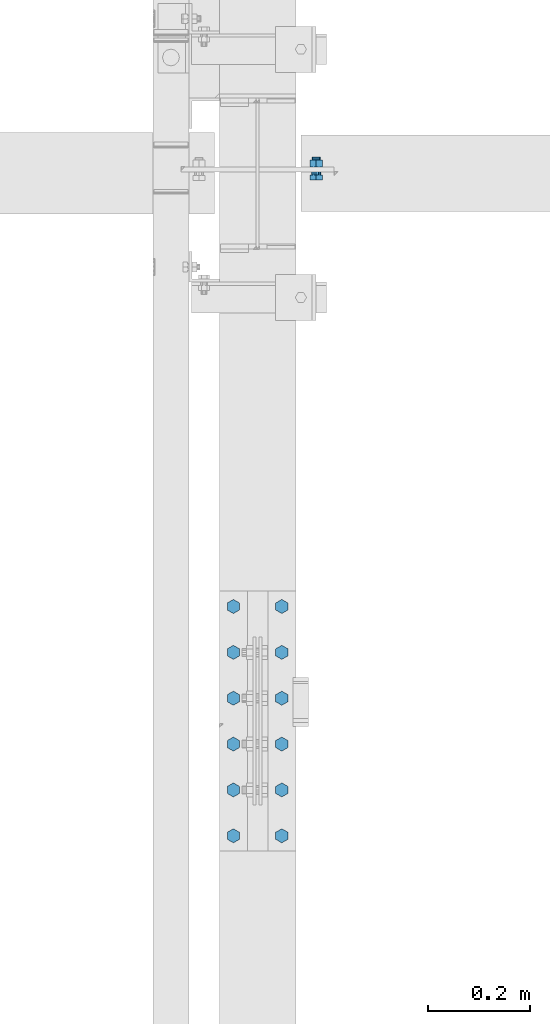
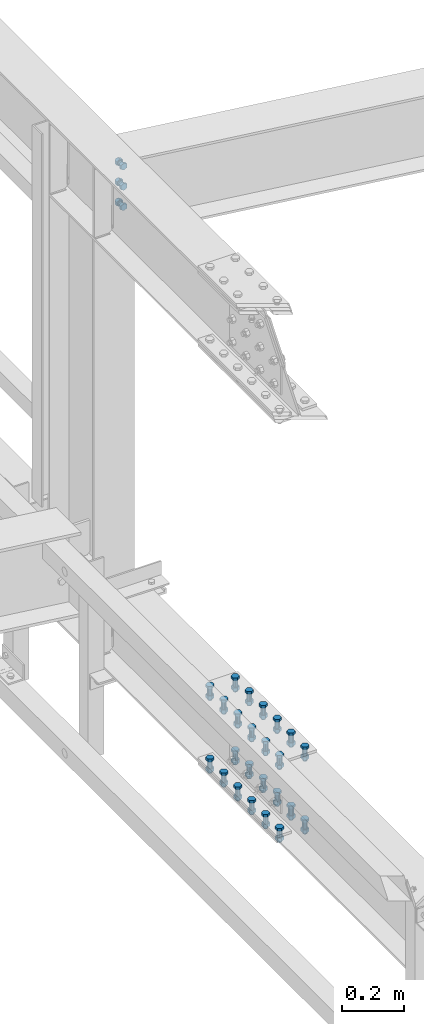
# One storey, part 273 of 3134: 9 mechanical fasteners, 3 elements without a shape of their own.
"""IFC2X3 building model written with IfcOpenShell, lengths in millimetres."""

from ifc_helpers import new_model, si_unit, frame, origin_with_axes, place, context, subcontext, project, spatial, faceted_brep, source, transform, mapped, material, type_object, element, aggregate, save


model = new_model("IFC2X3")

# Units and contexts
model_context = context("Model", 3, precision=1e-05, world=origin_with_axes())
body_context = subcontext(model_context, "Body", "Model", "MODEL_VIEW")
ifc_project = project(units=[si_unit("LENGTHUNIT", "METRE", prefix="MILLI"), si_unit("AREAUNIT", "SQUARE_METRE"), si_unit("VOLUMEUNIT", "CUBIC_METRE"), si_unit("MASSUNIT", "GRAM", prefix="KILO"), si_unit("TIMEUNIT", "SECOND"), si_unit("PLANEANGLEUNIT", "RADIAN"), si_unit("SOLIDANGLEUNIT", "STERADIAN"), si_unit("THERMODYNAMICTEMPERATUREUNIT", "DEGREE_CELSIUS"), si_unit("LUMINOUSINTENSITYUNIT", "LUMEN")], contexts=[model_context])

# Site, building, storey
site_placement = place(None, origin_with_axes())
site = spatial("IfcSite", under=ifc_project, at=site_placement, CompositionType="ELEMENT")
building_placement = place(site_placement, origin_with_axes())
building = spatial("IfcBuilding", under=site, at=building_placement, Name="Undefined", CompositionType="ELEMENT")
storey_placement = place(building_placement, origin_with_axes())
storey = spatial("IfcBuildingStorey", under=building, at=storey_placement, Name="Undefined", CompositionType="ELEMENT", Elevation=0.0)

# Assembly, mechanical fastener
assembly_1_placement = place(storey_placement, origin_with_axes())
assembly_1 = element("IfcElementAssembly", 1, at=assembly_1_placement, inside=storey, Name="300", AssemblyPlace="NOTDEFINED", PredefinedType="RIGID_FRAME")
ifc_material = material(Name="8.8")
mechanical_fastener_type = type_object("IfcMechanicalFastenerType", Name="Bolt assembly")
shared_shape_1 = source(origin_with_axes(), body_context, "Body", "Brep", [
    faceted_brep([(13.856406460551, -13.0499999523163, 0.0), (6.92820323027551, -13.0499999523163, 12.0), (-6.92820323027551, -13.0499999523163, 12.0), (-13.856406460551, -13.0499999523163, 1.69692038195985e-15), (-6.92820323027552, -13.0499999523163, -12.0), (6.9282032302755, -13.0499999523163, -12.0), (6.9282032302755, -3.04999995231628, -12.0), (-6.92820323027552, -3.04999995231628, -12.0), (-13.856406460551, -3.04999995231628, 1.69692038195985e-15), (-6.92820323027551, -3.04999995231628, 12.0), (6.92820323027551, -3.04999995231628, 12.0), (13.856406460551, -3.04999995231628, 0.0), (8.0, -3.04999995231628, 0.0), (6.92820323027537, -3.04999995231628, 4.00000000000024), (3.99999999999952, -3.04999995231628, 6.92820323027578), (-8.29068785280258e-13, -3.04999995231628, 8.0), (-4.00000000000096, -3.04999995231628, 6.92820323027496), (-6.9282032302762, -3.04999995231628, 3.99999999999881), (-8.0, -3.04999995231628, -1.65813757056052e-12), (-6.92820323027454, -3.04999995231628, -4.00000000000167), (-3.99999999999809, -3.04999995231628, -6.92820323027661), (2.47832457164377e-12, -3.04999995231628, -8.0), (4.00000000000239, -3.04999995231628, -6.92820323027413), (6.92820323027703, -3.04999995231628, -3.99999999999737), (6.92820323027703, 31.9500000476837, -3.99999999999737), (4.00000000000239, 31.9500000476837, -6.92820323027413), (2.47832457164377e-12, 31.9500000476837, -8.0), (-3.99999999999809, 31.9500000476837, -6.92820323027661), (-6.92820323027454, 31.9500000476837, -4.00000000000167), (-8.0, 31.9500000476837, -1.65813757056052e-12), (-6.9282032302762, 31.9500000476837, 3.99999999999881), (-4.00000000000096, 31.9500000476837, 6.92820323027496), (-8.29068785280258e-13, 31.9500000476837, 8.0), (3.99999999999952, 31.9500000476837, 6.92820323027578), (6.92820323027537, 31.9500000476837, 4.00000000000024), (8.0, 31.9500000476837, 0.0), (13.856406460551, 13.0500000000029, 0.0), (6.92820323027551, 13.0500000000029, 12.0), (-6.92820323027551, 13.0500000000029, 12.0), (-13.856406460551, 13.0500000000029, 1.69692038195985e-15), (-6.92820323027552, 13.0500000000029, -12.0), (6.9282032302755, 13.0500000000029, -12.0), (6.9282032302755, 26.0500000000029, -12.0), (-6.92820323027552, 26.0500000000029, -12.0), (-13.856406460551, 26.0500000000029, 1.69692038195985e-15), (-6.92820323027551, 26.0500000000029, 12.0), (6.92820323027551, 26.0500000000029, 12.0), (13.856406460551, 26.0500000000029, 0.0)], [[[0, 1, 2, 3, 4, 5]], [[6, 7, 8, 9, 10, 11]], [[0, 11, 10, 1]], [[1, 10, 9, 2]], [[2, 9, 8, 3]], [[3, 8, 7, 4]], [[4, 7, 6, 5]], [[5, 6, 11, 0]], [[12, 13, 14, 15, 16, 17, 18, 19, 20, 21, 22, 23]], [[24, 25, 26, 27, 28, 29, 30, 31, 32, 33, 34, 35]], [[12, 35, 34, 13]], [[13, 34, 33, 14]], [[14, 33, 32, 15]], [[15, 32, 31, 16]], [[16, 31, 30, 17]], [[17, 30, 29, 18]], [[18, 29, 28, 19]], [[19, 28, 27, 20]], [[20, 27, 26, 21]], [[21, 26, 25, 22]], [[22, 25, 24, 23]], [[23, 24, 35, 12]], [[36, 37, 38, 39, 40, 41]], [[42, 43, 44, 45, 46, 47]], [[36, 47, 46, 37]], [[37, 46, 45, 38]], [[38, 45, 44, 39]], [[39, 44, 43, 40]], [[40, 43, 42, 41]], [[41, 42, 47, 36]]]),
    faceted_brep([(9.0, 2.95000000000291, 0.0), (7.79422863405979, 2.95000000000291, 4.50000000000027), (4.49999999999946, 2.95000000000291, 7.79422863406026), (-9.3270238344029e-13, 2.95000000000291, 9.0), (-4.50000000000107, 2.95000000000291, 7.79422863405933), (-7.79422863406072, 2.95000000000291, 4.49999999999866), (-9.0, 2.95000000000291, -1.86540476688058e-12), (-7.79422863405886, 2.95000000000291, -4.50000000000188), (-4.49999999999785, 2.95000000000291, -7.79422863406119), (2.78811514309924e-12, 2.95000000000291, -9.0), (4.50000000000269, 2.95000000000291, -7.7942286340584), (7.79422863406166, 2.95000000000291, -4.49999999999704), (7.79422863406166, 13.0500000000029, -4.49999999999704), (4.50000000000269, 13.0500000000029, -7.7942286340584), (2.78811514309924e-12, 13.0500000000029, -9.0), (-4.49999999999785, 13.0500000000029, -7.79422863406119), (-7.79422863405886, 13.0500000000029, -4.50000000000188), (-9.0, 13.0500000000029, -1.86540476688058e-12), (-7.79422863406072, 13.0500000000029, 4.49999999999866), (-4.50000000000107, 13.0500000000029, 7.79422863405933), (-9.3270238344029e-13, 13.0500000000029, 9.0), (4.49999999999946, 13.0500000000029, 7.79422863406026), (7.79422863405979, 13.0500000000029, 4.50000000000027), (9.0, 13.0500000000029, 0.0), (9.0, -2.94999995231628, 0.0), (7.79422863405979, -2.94999995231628, 4.50000000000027), (4.49999999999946, -2.94999995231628, 7.79422863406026), (-9.3270238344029e-13, -2.94999995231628, 9.0), (-4.50000000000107, -2.94999995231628, 7.79422863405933), (-7.79422863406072, -2.94999995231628, 4.49999999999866), (-9.0, -2.94999995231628, -1.86540476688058e-12), (-7.79422863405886, -2.94999995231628, -4.50000000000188), (-4.49999999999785, -2.94999995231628, -7.79422863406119), (2.78811514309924e-12, -2.94999995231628, -9.0), (4.50000000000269, -2.94999995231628, -7.7942286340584), (7.79422863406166, -2.94999995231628, -4.49999999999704), (7.79422863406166, 3.14999995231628, -4.49999999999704), (4.50000000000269, 3.14999995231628, -7.7942286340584), (2.78811514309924e-12, 3.14999995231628, -9.0), (-4.49999999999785, 3.14999995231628, -7.79422863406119), (-7.79422863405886, 3.14999995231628, -4.50000000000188), (-9.0, 3.14999995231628, -1.86540476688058e-12), (-7.79422863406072, 3.14999995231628, 4.49999999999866), (-4.50000000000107, 3.14999995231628, 7.79422863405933), (-9.3270238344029e-13, 3.14999995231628, 9.0), (4.49999999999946, 3.14999995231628, 7.79422863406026), (7.79422863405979, 3.14999995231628, 4.50000000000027), (9.0, 3.14999995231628, 0.0)], [[[0, 1, 2, 3, 4, 5, 6, 7, 8, 9, 10, 11]], [[12, 13, 14, 15, 16, 17, 18, 19, 20, 21, 22, 23]], [[0, 23, 22, 1]], [[1, 22, 21, 2]], [[2, 21, 20, 3]], [[3, 20, 19, 4]], [[4, 19, 18, 5]], [[5, 18, 17, 6]], [[6, 17, 16, 7]], [[7, 16, 15, 8]], [[8, 15, 14, 9]], [[9, 14, 13, 10]], [[10, 13, 12, 11]], [[11, 12, 23, 0]], [[24, 25, 26, 27, 28, 29, 30, 31, 32, 33, 34, 35]], [[36, 37, 38, 39, 40, 41, 42, 43, 44, 45, 46, 47]], [[24, 47, 46, 25]], [[25, 46, 45, 26]], [[26, 45, 44, 27]], [[27, 44, 43, 28]], [[28, 43, 42, 29]], [[29, 42, 41, 30]], [[30, 41, 40, 31]], [[31, 40, 39, 32]], [[32, 39, 38, 33]], [[33, 38, 37, 34]], [[34, 37, 36, 35]], [[35, 36, 47, 24]]]),
])
mechanical_fastener_1_placement = place(assembly_1_placement, frame((44315.0, 53250.0, 5735.35014950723), z_axis=(1.0, 0.0, 0.0), x_axis=(0.0, 0.0, -1.0)))
mechanical_fastener_1 = element("IfcMechanicalFastener", 2, at=mechanical_fastener_1_placement, type_object=mechanical_fastener_type, material=ifc_material, Name="Bolt assembly", NominalDiameter=16.0, NominalLength=35.0, context=body_context, shape_type="MappedRepresentation", body=[
    mapped(shared_shape_1, transform((0.0, 0.0, 0.0))),
    mapped(shared_shape_1, transform((80.0, 0.0, 0.0))),
    mapped(shared_shape_1, transform((160.0, 0.0, 0.0))),
])
aggregate(assembly_1, [mechanical_fastener_1])

assembly_2_placement = place(storey_placement, origin_with_axes())
assembly_2 = element("IfcElementAssembly", 3, at=assembly_2_placement, inside=storey, Name="300", AssemblyPlace="NOTDEFINED", PredefinedType="RIGID_FRAME")
shared_shape_2 = source(origin_with_axes(), body_context, "Body", "Brep", [
    faceted_brep([(13.856406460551, -29.1999998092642, 0.0), (6.92820323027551, -29.1999998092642, 12.0), (-6.92820323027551, -29.1999998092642, 12.0), (-13.856406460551, -29.1999998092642, 1.69692038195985e-15), (-6.92820323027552, -29.1999998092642, -12.0), (6.9282032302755, -29.1999998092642, -12.0), (6.9282032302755, -19.199990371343, -12.0), (-6.92820323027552, -19.199990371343, -12.0), (-13.856406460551, -19.199990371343, 1.69692038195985e-15), (-6.92820323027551, -19.199990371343, 12.0), (6.92820323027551, -19.199990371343, 12.0), (13.856406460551, -19.199990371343, 0.0), (8.0, -19.1999998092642, 0.0), (6.92820323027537, -19.1999998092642, 4.00000000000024), (3.99999999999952, -19.1999998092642, 6.92820323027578), (-8.29068785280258e-13, -19.1999998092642, 8.0), (-4.00000000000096, -19.1999998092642, 6.92820323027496), (-6.9282032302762, -19.1999998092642, 3.99999999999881), (-8.0, -19.1999998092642, -1.65813757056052e-12), (-6.92820323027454, -19.1999998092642, -4.00000000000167), (-3.99999999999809, -19.1999998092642, -6.92820323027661), (2.47832457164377e-12, -19.1999998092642, -8.0), (4.00000000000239, -19.1999998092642, -6.92820323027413), (6.92820323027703, -19.1999998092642, -3.99999999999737), (6.92820323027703, 30.8000001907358, -3.99999999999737), (4.00000000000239, 30.8000001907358, -6.92820323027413), (2.47832457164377e-12, 30.8000001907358, -8.0), (-3.99999999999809, 30.8000001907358, -6.92820323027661), (-6.92820323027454, 30.8000001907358, -4.00000000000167), (-8.0, 30.8000001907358, -1.65813757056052e-12), (-6.9282032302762, 30.8000001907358, 3.99999999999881), (-4.00000000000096, 30.8000001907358, 6.92820323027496), (-8.29068785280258e-13, 30.8000001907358, 8.0), (3.99999999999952, 30.8000001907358, 6.92820323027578), (6.92820323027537, 30.8000001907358, 4.00000000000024), (8.0, 30.8000001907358, 0.0), (13.856406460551, 9.99999995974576, 0.0), (6.92820323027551, 9.99999995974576, 12.0), (-6.92820323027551, 9.99999995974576, 12.0), (-13.856406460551, 9.99999995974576, 1.69692038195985e-15), (-6.92820323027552, 9.99999995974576, -12.0), (6.9282032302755, 9.99999995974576, -12.0), (6.9282032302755, 22.9999913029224, -12.0), (-6.92820323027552, 22.9999913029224, -12.0), (-13.856406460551, 22.9999913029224, 1.69692038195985e-15), (-6.92820323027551, 22.9999913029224, 12.0), (6.92820323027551, 22.9999913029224, 12.0), (13.856406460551, 22.9999913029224, 0.0)], [[[0, 1, 2, 3, 4, 5]], [[6, 7, 8, 9, 10, 11]], [[0, 11, 10, 1]], [[1, 10, 9, 2]], [[2, 9, 8, 3]], [[3, 8, 7, 4]], [[4, 7, 6, 5]], [[5, 6, 11, 0]], [[12, 13, 14, 15, 16, 17, 18, 19, 20, 21, 22, 23]], [[24, 25, 26, 27, 28, 29, 30, 31, 32, 33, 34, 35]], [[12, 35, 34, 13]], [[13, 34, 33, 14]], [[14, 33, 32, 15]], [[15, 32, 31, 16]], [[16, 31, 30, 17]], [[17, 30, 29, 18]], [[18, 29, 28, 19]], [[19, 28, 27, 20]], [[20, 27, 26, 21]], [[21, 26, 25, 22]], [[22, 25, 24, 23]], [[23, 24, 35, 12]], [[36, 37, 38, 39, 40, 41]], [[42, 43, 44, 45, 46, 47]], [[36, 47, 46, 37]], [[37, 46, 45, 38]], [[38, 45, 44, 39]], [[39, 44, 43, 40]], [[40, 43, 42, 41]], [[41, 42, 47, 36]]]),
    faceted_brep([(9.0, -19.0999998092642, 0.0), (7.79422863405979, -19.0999998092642, 4.50000000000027), (4.49999999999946, -19.0999998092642, 7.79422863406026), (-9.3270238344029e-13, -19.0999998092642, 9.0), (-4.50000000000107, -19.0999998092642, 7.79422863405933), (-7.79422863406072, -19.0999998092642, 4.49999999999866), (-9.0, -19.0999998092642, -1.86540476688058e-12), (-7.79422863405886, -19.0999998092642, -4.50000000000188), (-4.49999999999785, -19.0999998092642, -7.79422863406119), (2.78811514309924e-12, -19.0999998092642, -9.0), (4.50000000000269, -19.0999998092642, -7.7942286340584), (7.79422863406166, -19.0999998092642, -4.49999999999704), (7.79422863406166, -9.09999037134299, -4.49999999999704), (4.50000000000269, -9.09999037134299, -7.7942286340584), (2.78811514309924e-12, -9.09999037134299, -9.0), (-4.49999999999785, -9.09999037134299, -7.79422863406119), (-7.79422863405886, -9.09999037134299, -4.50000000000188), (-9.0, -9.09999037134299, -1.86540476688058e-12), (-7.79422863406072, -9.09999037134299, 4.49999999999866), (-4.50000000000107, -9.09999037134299, 7.79422863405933), (-9.3270238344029e-13, -9.09999037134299, 9.0), (4.49999999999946, -9.09999037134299, 7.79422863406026), (7.79422863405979, -9.09999037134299, 4.50000000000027), (9.0, -9.09999037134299, 0.0), (9.0, -9.20000008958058, 0.0), (7.79422863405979, -9.20000008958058, 4.50000000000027), (4.49999999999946, -9.20000008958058, 7.79422863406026), (-9.3270238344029e-13, -9.20000008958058, 9.0), (-4.50000000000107, -9.20000008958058, 7.79422863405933), (-7.79422863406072, -9.20000008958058, 4.49999999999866), (-9.0, -9.20000008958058, -1.86540476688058e-12), (-7.79422863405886, -9.20000008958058, -4.50000000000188), (-4.49999999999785, -9.20000008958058, -7.79422863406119), (2.78811514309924e-12, -9.20000008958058, -9.0), (4.50000000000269, -9.20000008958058, -7.7942286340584), (7.79422863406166, -9.20000008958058, -4.49999999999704), (7.79422863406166, -3.46568413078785e-07, -4.49999999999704), (4.50000000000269, -3.46568413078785e-07, -7.7942286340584), (2.78811514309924e-12, -3.46568413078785e-07, -9.0), (-4.49999999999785, -3.46568413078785e-07, -7.79422863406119), (-7.79422863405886, -3.46568413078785e-07, -4.50000000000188), (-9.0, -3.46568413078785e-07, -1.86540476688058e-12), (-7.79422863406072, -3.46568413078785e-07, 4.49999999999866), (-4.50000000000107, -3.46568413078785e-07, 7.79422863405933), (-9.3270238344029e-13, -3.46568413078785e-07, 9.0), (4.49999999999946, -3.46568413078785e-07, 7.79422863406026), (7.79422863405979, -3.46568413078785e-07, 4.50000000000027), (9.0, -3.46568413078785e-07, 0.0), (9.0, -0.1, 0.0), (7.79422863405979, -0.1, 4.50000000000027), (4.49999999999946, -0.1, 7.79422863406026), (-9.3270238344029e-13, -0.1, 9.0), (-4.50000000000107, -0.1, 7.79422863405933), (-7.79422863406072, -0.1, 4.49999999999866), (-9.0, -0.1, -1.86540476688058e-12), (-7.79422863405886, -0.1, -4.50000000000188), (-4.49999999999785, -0.1, -7.79422863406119), (2.78811514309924e-12, -0.1, -9.0), (4.50000000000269, -0.1, -7.7942286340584), (7.79422863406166, -0.1, -4.49999999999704), (7.79422863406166, 9.99999995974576, -4.49999999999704), (4.50000000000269, 9.99999995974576, -7.7942286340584), (2.78811514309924e-12, 9.99999995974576, -9.0), (-4.49999999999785, 9.99999995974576, -7.79422863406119), (-7.79422863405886, 9.99999995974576, -4.50000000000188), (-9.0, 9.99999995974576, -1.86540476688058e-12), (-7.79422863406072, 9.99999995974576, 4.49999999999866), (-4.50000000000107, 9.99999995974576, 7.79422863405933), (-9.3270238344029e-13, 9.99999995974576, 9.0), (4.49999999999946, 9.99999995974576, 7.79422863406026), (7.79422863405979, 9.99999995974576, 4.50000000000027), (9.0, 9.99999995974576, 0.0)], [[[0, 1, 2, 3, 4, 5, 6, 7, 8, 9, 10, 11]], [[12, 13, 14, 15, 16, 17, 18, 19, 20, 21, 22, 23]], [[0, 23, 22, 1]], [[1, 22, 21, 2]], [[2, 21, 20, 3]], [[3, 20, 19, 4]], [[4, 19, 18, 5]], [[5, 18, 17, 6]], [[6, 17, 16, 7]], [[7, 16, 15, 8]], [[8, 15, 14, 9]], [[9, 14, 13, 10]], [[10, 13, 12, 11]], [[11, 12, 23, 0]], [[24, 25, 26, 27, 28, 29, 30, 31, 32, 33, 34, 35]], [[36, 37, 38, 39, 40, 41, 42, 43, 44, 45, 46, 47]], [[24, 47, 46, 25]], [[25, 46, 45, 26]], [[26, 45, 44, 27]], [[27, 44, 43, 28]], [[28, 43, 42, 29]], [[29, 42, 41, 30]], [[30, 41, 40, 31]], [[31, 40, 39, 32]], [[32, 39, 38, 33]], [[33, 38, 37, 34]], [[34, 37, 36, 35]], [[35, 36, 47, 24]], [[48, 49, 50, 51, 52, 53, 54, 55, 56, 57, 58, 59]], [[60, 61, 62, 63, 64, 65, 66, 67, 68, 69, 70, 71]], [[48, 71, 70, 49]], [[49, 70, 69, 50]], [[50, 69, 68, 51]], [[51, 68, 67, 52]], [[52, 67, 66, 53]], [[53, 66, 65, 54]], [[54, 65, 64, 55]], [[55, 64, 63, 56]], [[56, 63, 62, 57]], [[57, 62, 61, 58]], [[58, 61, 60, 59]], [[59, 60, 71, 48]]]),
])
mechanical_fastener_2_placement = place(assembly_2_placement, frame((44247.5, 52220.1, 4227.80000019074), z_axis=(-1.0, 0.0, 0.0), x_axis=(0.0, 1.0, 0.0)))
mechanical_fastener_2 = element("IfcMechanicalFastener", 4, at=mechanical_fastener_2_placement, type_object=mechanical_fastener_type, material=ifc_material, Name="Bolt assembly", NominalDiameter=16.0, NominalLength=50.0, context=body_context, shape_type="MappedRepresentation", body=[
    mapped(shared_shape_2, transform((0.0, 0.0, 0.0))),
    mapped(shared_shape_2, transform((90.0, 0.0, 0.0))),
    mapped(shared_shape_2, transform((180.0, 0.0, 0.0))),
])

assembly_3_placement = place(storey_placement, origin_with_axes())
assembly_3 = element("IfcElementAssembly", 5, at=assembly_3_placement, inside=storey, Name="300", AssemblyPlace="NOTDEFINED", PredefinedType="RIGID_FRAME")
mechanical_fastener_3_placement = place(assembly_3_placement, frame((44247.5, 51950.1, 4227.80000019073), z_axis=(-1.0, 0.0, 0.0), x_axis=(0.0, 1.0, 0.0)))
mechanical_fastener_3 = element("IfcMechanicalFastener", 6, at=mechanical_fastener_3_placement, type_object=mechanical_fastener_type, material=ifc_material, Name="Bolt assembly", NominalDiameter=16.0, NominalLength=50.0, context=body_context, shape_type="MappedRepresentation", body=[
    mapped(shared_shape_2, transform((0.0, 0.0, 0.0))),
    mapped(shared_shape_2, transform((90.0, 0.0, 0.0))),
    mapped(shared_shape_2, transform((180.0, 0.0, 0.0))),
])

# Mechanical fastener
mechanical_fastener_4_placement = place(assembly_2_placement, frame((44152.5, 52220.1, 4227.80000019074), z_axis=(-1.0, 0.0, 0.0), x_axis=(0.0, 1.0, 0.0)))
mechanical_fastener_4 = element("IfcMechanicalFastener", 7, at=mechanical_fastener_4_placement, type_object=mechanical_fastener_type, material=ifc_material, Name="Bolt assembly", NominalDiameter=16.0, NominalLength=50.0, context=body_context, shape_type="MappedRepresentation", body=[
    mapped(shared_shape_2, transform((0.0, 0.0, 0.0))),
    mapped(shared_shape_2, transform((90.0, 0.0, 0.0))),
    mapped(shared_shape_2, transform((180.0, 0.0, 0.0))),
])

mechanical_fastener_5_placement = place(assembly_3_placement, frame((44152.5, 51950.1, 4227.80000019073), z_axis=(-1.0, 0.0, 0.0), x_axis=(0.0, 1.0, 0.0)))
mechanical_fastener_5 = element("IfcMechanicalFastener", 8, at=mechanical_fastener_5_placement, type_object=mechanical_fastener_type, material=ifc_material, Name="Bolt assembly", NominalDiameter=16.0, NominalLength=50.0, context=body_context, shape_type="MappedRepresentation", body=[
    mapped(shared_shape_2, transform((0.0, 0.0, 0.0))),
    mapped(shared_shape_2, transform((90.0, 0.0, 0.0))),
    mapped(shared_shape_2, transform((180.0, 0.0, 0.0))),
])

shared_shape_3 = source(origin_with_axes(), body_context, "Body", "Brep", [
    faceted_brep([(13.856406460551, -20.0, 0.0), (6.92820323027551, -20.0, 12.0), (-6.92820323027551, -20.0, 12.0), (-13.856406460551, -20.0, 1.69692038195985e-15), (-6.92820323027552, -20.0, -12.0), (6.9282032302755, -20.0, -12.0), (6.9282032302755, -10.0, -12.0), (-6.92820323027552, -10.0, -12.0), (-13.856406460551, -10.0, 1.69692038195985e-15), (-6.92820323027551, -10.0, 12.0), (6.92820323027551, -10.0, 12.0), (13.856406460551, -10.0, 0.0), (8.0, -10.0, 0.0), (6.92820323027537, -10.0, 4.00000000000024), (3.99999999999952, -10.0, 6.92820323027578), (-8.29068785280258e-13, -10.0, 8.0), (-4.00000000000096, -10.0, 6.92820323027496), (-6.9282032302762, -10.0, 3.99999999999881), (-8.0, -10.0, -1.65813757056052e-12), (-6.92820323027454, -10.0, -4.00000000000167), (-3.99999999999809, -10.0, -6.92820323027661), (2.47832457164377e-12, -10.0, -8.0), (4.00000000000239, -10.0, -6.92820323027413), (6.92820323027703, -10.0, -3.99999999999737), (6.92820323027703, 40.0, -3.99999999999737), (4.00000000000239, 40.0, -6.92820323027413), (2.47832457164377e-12, 40.0, -8.0), (-3.99999999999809, 40.0, -6.92820323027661), (-6.92820323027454, 40.0, -4.00000000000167), (-8.0, 40.0, -1.65813757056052e-12), (-6.9282032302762, 40.0, 3.99999999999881), (-4.00000000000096, 40.0, 6.92820323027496), (-8.29068785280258e-13, 40.0, 8.0), (3.99999999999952, 40.0, 6.92820323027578), (6.92820323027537, 40.0, 4.00000000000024), (8.0, 40.0, 0.0), (13.856406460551, 19.1999998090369, 0.0), (6.92820323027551, 19.1999998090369, 12.0), (-6.92820323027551, 19.1999998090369, 12.0), (-13.856406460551, 19.1999998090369, 1.69692038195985e-15), (-6.92820323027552, 19.1999998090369, -12.0), (6.9282032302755, 19.1999998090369, -12.0), (6.9282032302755, 32.1999998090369, -12.0), (-6.92820323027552, 32.1999998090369, -12.0), (-13.856406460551, 32.1999998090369, 1.69692038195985e-15), (-6.92820323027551, 32.1999998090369, 12.0), (6.92820323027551, 32.1999998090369, 12.0), (13.856406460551, 32.1999998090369, 0.0)], [[[0, 1, 2, 3, 4, 5]], [[6, 7, 8, 9, 10, 11]], [[0, 11, 10, 1]], [[1, 10, 9, 2]], [[2, 9, 8, 3]], [[3, 8, 7, 4]], [[4, 7, 6, 5]], [[5, 6, 11, 0]], [[12, 13, 14, 15, 16, 17, 18, 19, 20, 21, 22, 23]], [[24, 25, 26, 27, 28, 29, 30, 31, 32, 33, 34, 35]], [[12, 35, 34, 13]], [[13, 34, 33, 14]], [[14, 33, 32, 15]], [[15, 32, 31, 16]], [[16, 31, 30, 17]], [[17, 30, 29, 18]], [[18, 29, 28, 19]], [[19, 28, 27, 20]], [[20, 27, 26, 21]], [[21, 26, 25, 22]], [[22, 25, 24, 23]], [[23, 24, 35, 12]], [[36, 37, 38, 39, 40, 41]], [[42, 43, 44, 45, 46, 47]], [[36, 47, 46, 37]], [[37, 46, 45, 38]], [[38, 45, 44, 39]], [[39, 44, 43, 40]], [[40, 43, 42, 41]], [[41, 42, 47, 36]]]),
    faceted_brep([(9.0, 9.09999980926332, 0.0), (7.79422863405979, 9.09999980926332, 4.50000000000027), (4.49999999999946, 9.09999980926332, 7.79422863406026), (-9.3270238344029e-13, 9.09999980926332, 9.0), (-4.50000000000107, 9.09999980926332, 7.79422863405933), (-7.79422863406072, 9.09999980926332, 4.49999999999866), (-9.0, 9.09999980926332, -1.86540476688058e-12), (-7.79422863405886, 9.09999980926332, -4.50000000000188), (-4.49999999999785, 9.09999980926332, -7.79422863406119), (2.78811514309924e-12, 9.09999980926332, -9.0), (4.50000000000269, 9.09999980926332, -7.7942286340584), (7.79422863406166, 9.09999980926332, -4.49999999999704), (7.79422863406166, 19.1999998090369, -4.49999999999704), (4.50000000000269, 19.1999998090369, -7.7942286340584), (2.78811514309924e-12, 19.1999998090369, -9.0), (-4.49999999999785, 19.1999998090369, -7.79422863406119), (-7.79422863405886, 19.1999998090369, -4.50000000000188), (-9.0, 19.1999998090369, -1.86540476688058e-12), (-7.79422863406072, 19.1999998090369, 4.49999999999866), (-4.50000000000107, 19.1999998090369, 7.79422863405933), (-9.3270238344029e-13, 19.1999998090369, 9.0), (4.49999999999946, 19.1999998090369, 7.79422863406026), (7.79422863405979, 19.1999998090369, 4.50000000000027), (9.0, 19.1999998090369, 0.0), (9.0, -3.46568413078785e-07, 0.0), (7.79422863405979, -3.46568413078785e-07, 4.50000000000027), (4.49999999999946, -3.46568413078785e-07, 7.79422863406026), (-9.3270238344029e-13, -3.46568413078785e-07, 9.0), (-4.50000000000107, -3.46568413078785e-07, 7.79422863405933), (-7.79422863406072, -3.46568413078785e-07, 4.49999999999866), (-9.0, -3.46568413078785e-07, -1.86540476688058e-12), (-7.79422863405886, -3.46568413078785e-07, -4.50000000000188), (-4.49999999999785, -3.46568413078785e-07, -7.79422863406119), (2.78811514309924e-12, -3.46568413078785e-07, -9.0), (4.50000000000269, -3.46568413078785e-07, -7.7942286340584), (7.79422863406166, -3.46568413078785e-07, -4.49999999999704), (7.79422863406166, 9.19999980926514, -4.49999999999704), (4.50000000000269, 9.19999980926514, -7.7942286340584), (2.78811514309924e-12, 9.19999980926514, -9.0), (-4.49999999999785, 9.19999980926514, -7.79422863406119), (-7.79422863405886, 9.19999980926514, -4.50000000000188), (-9.0, 9.19999980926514, -1.86540476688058e-12), (-7.79422863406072, 9.19999980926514, 4.49999999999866), (-4.50000000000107, 9.19999980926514, 7.79422863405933), (-9.3270238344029e-13, 9.19999980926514, 9.0), (4.49999999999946, 9.19999980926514, 7.79422863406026), (7.79422863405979, 9.19999980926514, 4.50000000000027), (9.0, 9.19999980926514, 0.0), (9.0, -9.89999997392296, 0.0), (7.79422863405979, -9.89999997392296, 4.50000000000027), (4.49999999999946, -9.89999997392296, 7.79422863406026), (-9.3270238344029e-13, -9.89999997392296, 9.0), (-4.50000000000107, -9.89999997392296, 7.79422863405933), (-7.79422863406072, -9.89999997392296, 4.49999999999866), (-9.0, -9.89999997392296, -1.86540476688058e-12), (-7.79422863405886, -9.89999997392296, -4.50000000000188), (-4.49999999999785, -9.89999997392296, -7.79422863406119), (2.78811514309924e-12, -9.89999997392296, -9.0), (4.50000000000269, -9.89999997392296, -7.7942286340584), (7.79422863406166, -9.89999997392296, -4.49999999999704), (7.79422863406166, 0.100000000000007, -4.49999999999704), (4.50000000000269, 0.100000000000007, -7.7942286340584), (2.78811514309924e-12, 0.100000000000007, -9.0), (-4.49999999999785, 0.100000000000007, -7.79422863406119), (-7.79422863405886, 0.100000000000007, -4.50000000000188), (-9.0, 0.100000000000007, -1.86540476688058e-12), (-7.79422863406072, 0.100000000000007, 4.49999999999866), (-4.50000000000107, 0.100000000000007, 7.79422863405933), (-9.3270238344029e-13, 0.100000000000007, 9.0), (4.49999999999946, 0.100000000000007, 7.79422863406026), (7.79422863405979, 0.100000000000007, 4.50000000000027), (9.0, 0.100000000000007, 0.0)], [[[0, 1, 2, 3, 4, 5, 6, 7, 8, 9, 10, 11]], [[12, 13, 14, 15, 16, 17, 18, 19, 20, 21, 22, 23]], [[0, 23, 22, 1]], [[1, 22, 21, 2]], [[2, 21, 20, 3]], [[3, 20, 19, 4]], [[4, 19, 18, 5]], [[5, 18, 17, 6]], [[6, 17, 16, 7]], [[7, 16, 15, 8]], [[8, 15, 14, 9]], [[9, 14, 13, 10]], [[10, 13, 12, 11]], [[11, 12, 23, 0]], [[24, 25, 26, 27, 28, 29, 30, 31, 32, 33, 34, 35]], [[36, 37, 38, 39, 40, 41, 42, 43, 44, 45, 46, 47]], [[24, 47, 46, 25]], [[25, 46, 45, 26]], [[26, 45, 44, 27]], [[27, 44, 43, 28]], [[28, 43, 42, 29]], [[29, 42, 41, 30]], [[30, 41, 40, 31]], [[31, 40, 39, 32]], [[32, 39, 38, 33]], [[33, 38, 37, 34]], [[34, 37, 36, 35]], [[35, 36, 47, 24]], [[48, 49, 50, 51, 52, 53, 54, 55, 56, 57, 58, 59]], [[60, 61, 62, 63, 64, 65, 66, 67, 68, 69, 70, 71]], [[48, 71, 70, 49]], [[49, 70, 69, 50]], [[50, 69, 68, 51]], [[51, 68, 67, 52]], [[52, 67, 66, 53]], [[53, 66, 65, 54]], [[54, 65, 64, 55]], [[55, 64, 63, 56]], [[56, 63, 62, 57]], [[57, 62, 61, 58]], [[58, 61, 60, 59]], [[59, 60, 71, 48]]]),
])
mechanical_fastener_6_placement = place(assembly_2_placement, frame((44152.4999999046, 52220.1, 3949.19999980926), z_axis=(-1.0, 0.0, 0.0), x_axis=(0.0, 1.0, 0.0)))
mechanical_fastener_6 = element("IfcMechanicalFastener", 9, at=mechanical_fastener_6_placement, type_object=mechanical_fastener_type, material=ifc_material, Name="Bolt assembly", NominalDiameter=16.0, NominalLength=50.0, context=body_context, shape_type="MappedRepresentation", body=[
    mapped(shared_shape_3, transform((0.0, 0.0, 0.0))),
    mapped(shared_shape_3, transform((90.0, 0.0, 0.0))),
    mapped(shared_shape_3, transform((180.0, 0.0, 0.0))),
])

mechanical_fastener_7_placement = place(assembly_3_placement, frame((44152.4999999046, 51950.1, 3949.19999980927), z_axis=(-1.0, 0.0, 0.0), x_axis=(0.0, 1.0, 0.0)))
mechanical_fastener_7 = element("IfcMechanicalFastener", 10, at=mechanical_fastener_7_placement, type_object=mechanical_fastener_type, material=ifc_material, Name="Bolt assembly", NominalDiameter=16.0, NominalLength=50.0, context=body_context, shape_type="MappedRepresentation", body=[
    mapped(shared_shape_3, transform((0.0, 0.0, 0.0))),
    mapped(shared_shape_3, transform((90.0, 0.0, 0.0))),
    mapped(shared_shape_3, transform((180.0, 0.0, 0.0))),
])

mechanical_fastener_8_placement = place(assembly_2_placement, frame((44247.4999999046, 52220.1, 3949.19999980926), z_axis=(-1.0, 0.0, 0.0), x_axis=(0.0, 1.0, 0.0)))
mechanical_fastener_8 = element("IfcMechanicalFastener", 11, at=mechanical_fastener_8_placement, type_object=mechanical_fastener_type, material=ifc_material, Name="Bolt assembly", NominalDiameter=16.0, NominalLength=50.0, context=body_context, shape_type="MappedRepresentation", body=[
    mapped(shared_shape_3, transform((0.0, 0.0, 0.0))),
    mapped(shared_shape_3, transform((90.0, 0.0, 0.0))),
    mapped(shared_shape_3, transform((180.0, 0.0, 0.0))),
])

aggregate(assembly_2, [mechanical_fastener_2, mechanical_fastener_4, mechanical_fastener_6, mechanical_fastener_8])

mechanical_fastener_9_placement = place(assembly_3_placement, frame((44247.4999999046, 51950.1, 3949.19999980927), z_axis=(-1.0, 0.0, 0.0), x_axis=(0.0, 1.0, 0.0)))
mechanical_fastener_9 = element("IfcMechanicalFastener", 12, at=mechanical_fastener_9_placement, type_object=mechanical_fastener_type, material=ifc_material, Name="Bolt assembly", NominalDiameter=16.0, NominalLength=50.0, context=body_context, shape_type="MappedRepresentation", body=[
    mapped(shared_shape_3, transform((0.0, 0.0, 0.0))),
    mapped(shared_shape_3, transform((90.0, 0.0, 0.0))),
    mapped(shared_shape_3, transform((180.0, 0.0, 0.0))),
])

aggregate(assembly_3, [mechanical_fastener_3, mechanical_fastener_5, mechanical_fastener_7, mechanical_fastener_9])

save(model, "model.ifc")
